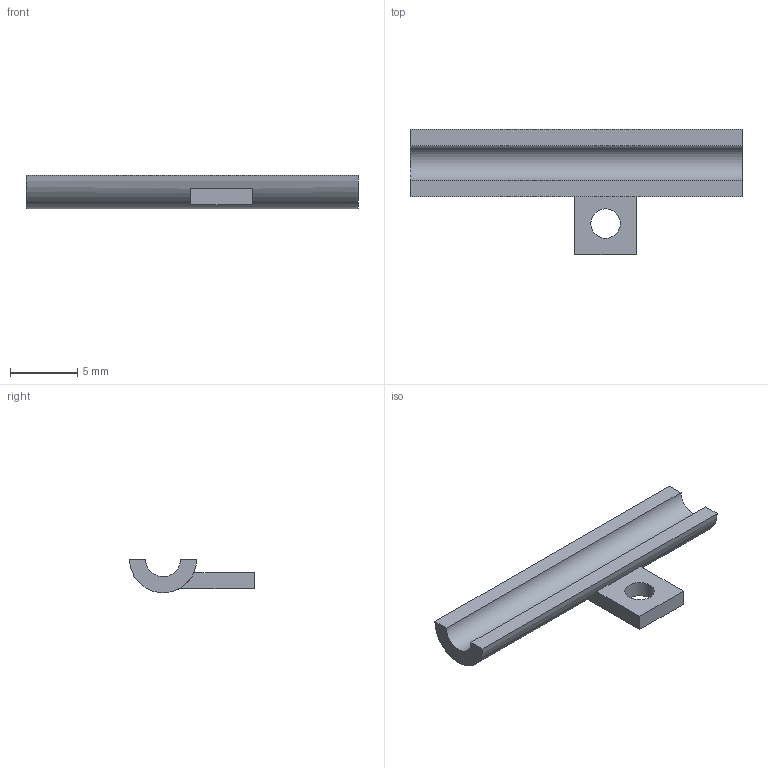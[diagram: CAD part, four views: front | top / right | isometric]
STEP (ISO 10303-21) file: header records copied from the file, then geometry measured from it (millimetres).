
FILE_DESCRIPTION(/* description */ (''),/* implementation_level */ '2;1');
FILE_NAME(/* name */ 'P18.step',/* time_stamp */ '2026-09-14T14:45:13-07:00',/* author */ (''),/* organization */ (''),/* preprocessor_version */ 'ST-DEVELOPER v20.1',/* originating_system */ 'Autodesk Translation Framework v15.8.0.0',/* authorisation */ '');
FILE_SCHEMA (('AUTOMOTIVE_DESIGN { 1 0 10303 214 3 1 1 }'));
Length unit declared in the file: millimetre
Products named in the file (1): 2026-09-14-14-45-13-621
Bounding box: 24.7 x 9.3 x 2.5 mm (x, y, z)
Volume: 199.6 mm3; surface area: 425.8 mm2
Topology: 1 solids, 1 shells, 13 faces, 30 edges, 20 vertices
Faces by surface type: plane 10, cylinder 3
Full cylindrical faces by diameter (mm): 2.2 x1
Entity records: 409 total; most frequent: DIRECTION 66, CARTESIAN_POINT 64, ORIENTED_EDGE 60, EDGE_CURVE 30, LINE 22, VECTOR 22, AXIS2_PLACEMENT_3D 22, VERTEX_POINT 20
